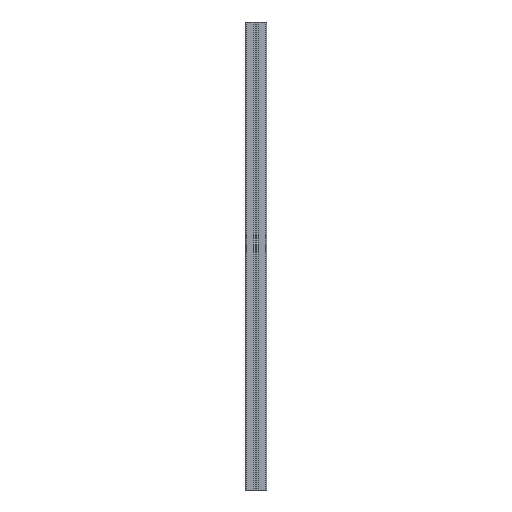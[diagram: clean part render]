
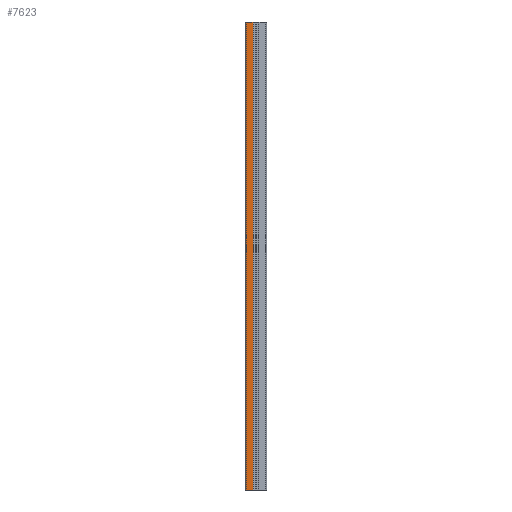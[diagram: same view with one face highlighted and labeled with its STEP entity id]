
A CAD part, left-side view. The second image highlights one B-rep face of the part: STEP entity #7623.
In plain terms, the highlighted planar face has unit normal (-1, 0, 0).
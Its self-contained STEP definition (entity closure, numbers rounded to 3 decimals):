
#291 = VECTOR ( 'NONE', #1935, 1000. ) ;
#447 = LINE ( 'NONE', #6316, #2385 ) ;
#811 = CARTESIAN_POINT ( 'NONE',  ( -22.5, 6.325, 0. ) ) ;
#1181 = CARTESIAN_POINT ( 'NONE',  ( -22.5, 22.5, -1000. ) ) ;
#1195 = CARTESIAN_POINT ( 'NONE',  ( -22.5, 22.5, -1000. ) ) ;
#1343 = AXIS2_PLACEMENT_3D ( 'NONE', #1181, #1921, #7052 ) ;
#1458 = CARTESIAN_POINT ( 'NONE',  ( -22.5, 6.325, -1000. ) ) ;
#1912 = CARTESIAN_POINT ( 'NONE',  ( -22.5, 20.5, -1000. ) ) ;
#1921 = DIRECTION ( 'NONE',  ( -1., 0., 0. ) ) ;
#1935 = DIRECTION ( 'NONE',  ( 0., 1., 0. ) ) ;
#2070 = CARTESIAN_POINT ( 'NONE',  ( -22.5, 22.5, 0. ) ) ;
#2201 = ORIENTED_EDGE ( 'NONE', *, *, #5088, .T. ) ;
#2345 = ORIENTED_EDGE ( 'NONE', *, *, #7824, .T. ) ;
#2355 = EDGE_LOOP ( 'NONE', ( #2201, #2345, #6281, #6060 ) ) ;
#2385 = VECTOR ( 'NONE', #7056, 1000. ) ;
#2779 = VERTEX_POINT ( 'NONE', #8246 ) ;
#2896 = DIRECTION ( 'NONE',  ( 0., 0., -1. ) ) ;
#3728 = EDGE_CURVE ( 'NONE', #4760, #5782, #7606, .T. ) ;
#4012 = VERTEX_POINT ( 'NONE', #811 ) ;
#4760 = VERTEX_POINT ( 'NONE', #1458 ) ;
#5088 = EDGE_CURVE ( 'NONE', #4012, #2779, #7626, .T. ) ;
#5249 = VECTOR ( 'NONE', #2896, 1000. ) ;
#5573 = PLANE ( 'NONE',  #1343 ) ;
#5672 = VECTOR ( 'NONE', #6519, 1000. ) ;
#5782 = VERTEX_POINT ( 'NONE', #1912 ) ;
#6060 = ORIENTED_EDGE ( 'NONE', *, *, #7548, .F. ) ;
#6281 = ORIENTED_EDGE ( 'NONE', *, *, #3728, .F. ) ;
#6316 = CARTESIAN_POINT ( 'NONE',  ( -22.5, 6.325, -1000. ) ) ;
#6519 = DIRECTION ( 'NONE',  ( 0., 1., 0. ) ) ;
#7052 = DIRECTION ( 'NONE',  ( 0., 0., 1. ) ) ;
#7056 = DIRECTION ( 'NONE',  ( 0., 0., -1. ) ) ;
#7548 = EDGE_CURVE ( 'NONE', #4012, #4760, #447, .T. ) ;
#7606 = LINE ( 'NONE', #1195, #291 ) ;
#7623 = ADVANCED_FACE ( 'NONE', ( #9032 ), #5573, .T. ) ;
#7626 = LINE ( 'NONE', #2070, #5672 ) ;
#7824 = EDGE_CURVE ( 'NONE', #2779, #5782, #9136, .T. ) ;
#8018 = CARTESIAN_POINT ( 'NONE',  ( -22.5, 20.5, -1000. ) ) ;
#8246 = CARTESIAN_POINT ( 'NONE',  ( -22.5, 20.5, 0. ) ) ;
#9032 = FACE_OUTER_BOUND ( 'NONE', #2355, .T. ) ;
#9136 = LINE ( 'NONE', #8018, #5249 ) ;
